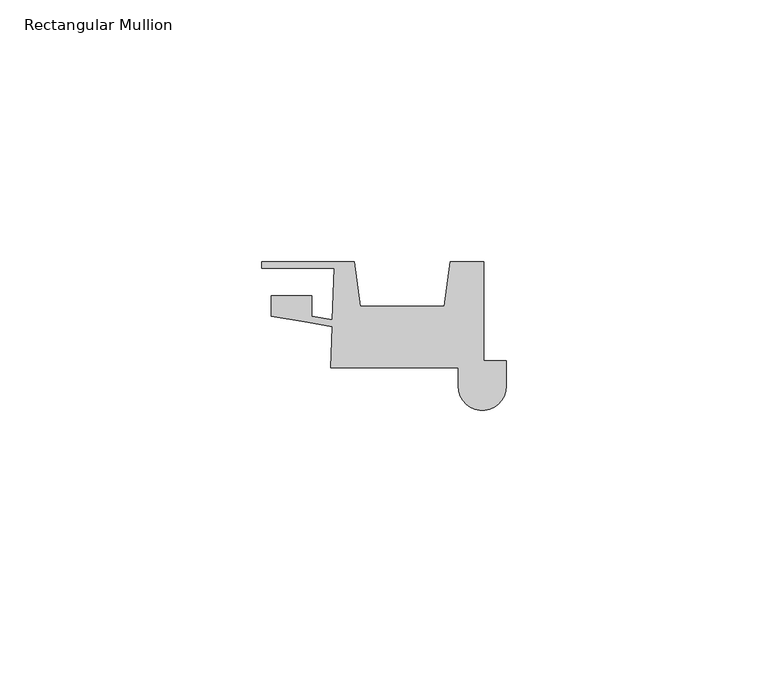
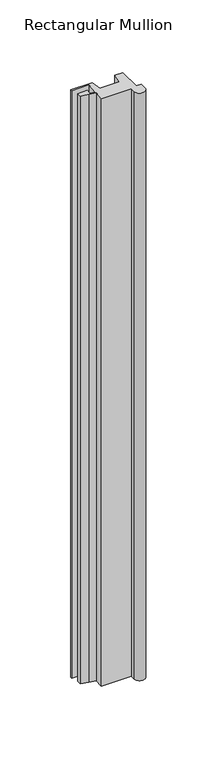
"""IFC4 building model written with IfcOpenShell, lengths in millimetres: member geometry, Rectangular Mullion : QuickPanel-Reveal_Multi-Angle-Outside-Corner-Trim-Right."""

import ifcopenshell
import ifcopenshell.guid

model = None  # the IFC model being written
_history = None  # IfcOwnerHistory: only IFC2X3 demands one
_inside = {}  # id of a spatial element -> (the spatial element, [elements in it])
_under = {}  # id of a project, library or spatial element -> (it, [spatial elements below it])
_declared = {}  # id of a project -> (the project, [libraries it declares])
_typed = {}  # id of a type object -> (the type object, [elements of that type])
_made_of = {}  # id of a material, layer set ... -> (it, [elements and type objects made of it])


def new_model(schema):
    """Start an empty IFC model of exactly this schema.

    Asked for "IFC4X3", IfcOpenShell would pick the latest addendum, in which some entities
    have other attributes; the version numbers below select the first issue.
    IFC2X3 requires an IfcOwnerHistory on every rooted entity: one is made here for all.
    """
    global model, _history
    if schema == "IFC4X3":
        model = ifcopenshell.file(schema_version=(4, 3, 0, 0))
    else:
        model = ifcopenshell.file(schema=schema)
    _inside.clear()
    _under.clear()
    _declared.clear()
    _typed.clear()
    _made_of.clear()
    _history = None
    if model.schema == "IFC2X3":
        org = make("IfcOrganization", Name="unknown")
        user = make(
            "IfcPersonAndOrganization",
            ThePerson=make("IfcPerson", FamilyName="unknown"),
            TheOrganization=org,
        )
        app = make(
            "IfcApplication",
            ApplicationDeveloper=org,
            Version="unknown",
            ApplicationFullName="unknown",
            ApplicationIdentifier="unknown",
        )
        _history = make(
            "IfcOwnerHistory",
            OwningUser=user,
            OwningApplication=app,
            ChangeAction="ADDED",
            CreationDate=0,
        )
    return model


def make(cls, **values):
    """One entity of the class cls with the attributes given. An attribute that is None is left unset."""
    return model.create_entity(
        cls, **{name: value for name, value in values.items() if value is not None}
    )


def rooted(cls, **values):
    """An entity with a GlobalId (a new one), such as an element, a storey or a relation."""
    return make(cls, GlobalId=ifcopenshell.guid.new(), OwnerHistory=_history, **values)


def si_unit(unit_type, name, prefix=None):
    """IfcSIUnit, for example si_unit("LENGTHUNIT", "METRE", prefix="MILLI")."""
    return make("IfcSIUnit", UnitType=unit_type, Prefix=prefix, Name=name)


def assignment(units):
    """IfcUnitAssignment: the units of a project."""
    return None if units is None else make("IfcUnitAssignment", Units=units)


def point(xyz):
    """IfcCartesianPoint."""
    return None if xyz is None else make("IfcCartesianPoint", Coordinates=xyz)


def direction(xyz):
    """IfcDirection."""
    return None if xyz is None else make("IfcDirection", DirectionRatios=xyz)


def frame(location, z_axis=None, x_axis=None):
    """IfcAxis2Placement3D, a coordinate frame: its origin and axes. An axis left out is left unset."""
    return make(
        "IfcAxis2Placement3D",
        Location=point(location),
        Axis=direction(z_axis),
        RefDirection=direction(x_axis),
    )


def frame_2d(location, x_axis=None):
    """IfcAxis2Placement2D, a coordinate frame in the plane: its origin and x axis."""
    return make(
        "IfcAxis2Placement2D", Location=point(location), RefDirection=direction(x_axis)
    )


def origin():
    """The frame at (0, 0, 0) with its axes left unset."""
    return frame((0.0, 0.0, 0.0))


def place(relative_to, where):
    """IfcLocalPlacement: puts the frame where relative to a parent placement (None: the world)."""
    return make(
        "IfcLocalPlacement", PlacementRelTo=relative_to, RelativePlacement=where
    )


def context(
    kind, dimensions, precision=None, world=None, true_north=None, identifier=None
):
    """IfcGeometricRepresentationContext, for example the 3D "Model" context."""
    return make(
        "IfcGeometricRepresentationContext",
        ContextIdentifier=identifier,
        ContextType=kind,
        CoordinateSpaceDimension=dimensions,
        Precision=precision,
        WorldCoordinateSystem=world,
        TrueNorth=true_north,
    )


def project(units=None, contexts=None):
    """IfcProject with its units and contexts."""
    return rooted(
        "IfcProject",
        Name="project",
        RepresentationContexts=contexts,
        UnitsInContext=assignment(units),
    )


def spatial(cls, under=None, at=None, **own):
    """A site, building, storey or space (cls), placed at a placement, below another one or the project."""
    s = rooted(cls, ObjectPlacement=at, **own)
    if under is not None:
        _under.setdefault(under.id(), (under, []))[1].append(s)
    return s


def polyline(points):
    """IfcPolyline through the points."""
    return make("IfcPolyline", Points=[point(p) for p in points])


def circle_curve(where, radius):
    """IfcCircle in the frame where."""
    return make("IfcCircle", Position=where, Radius=radius)


def trimmed(basis, trim1, trim2, sense, master):
    """IfcTrimmedCurve: the piece of a basis curve between two trims."""
    return make(
        "IfcTrimmedCurve",
        BasisCurve=basis,
        Trim1=trim1,
        Trim2=trim2,
        SenseAgreement=sense,
        MasterRepresentation=master,
    )


def segment(curve, same_sense, transition):
    """IfcCompositeCurveSegment."""
    return make(
        "IfcCompositeCurveSegment",
        Transition=transition,
        SameSense=same_sense,
        ParentCurve=curve,
    )


def composite_curve(segments, self_intersect=None):
    """IfcCompositeCurve: segments joined end to end."""
    return make("IfcCompositeCurve", Segments=segments, SelfIntersect=self_intersect)


def outline(outer, holes=None, kind="AREA"):
    """IfcArbitraryClosedProfileDef: a profile drawn as a closed curve; with holes, ...WithVoids."""
    if holes is None:
        return make("IfcArbitraryClosedProfileDef", ProfileType=kind, OuterCurve=outer)
    return make(
        "IfcArbitraryProfileDefWithVoids",
        ProfileType=kind,
        OuterCurve=outer,
        InnerCurves=holes,
    )


def extrude(swept, where, along, depth):
    """IfcExtrudedAreaSolid: the profile swept, set in the frame where, extruded along a direction by depth."""
    return make(
        "IfcExtrudedAreaSolid",
        SweptArea=swept,
        Position=where,
        ExtrudedDirection=direction(along),
        Depth=depth,
    )


def shape(context_of_items, identifier, shape_type, items):
    """IfcShapeRepresentation: the items that make up one representation, for example the "Body"."""
    return make(
        "IfcShapeRepresentation",
        ContextOfItems=context_of_items,
        RepresentationIdentifier=identifier,
        RepresentationType=shape_type,
        Items=items,
    )


def source(mapping_origin, context_of_items, identifier, shape_type, items):
    """IfcRepresentationMap: a shape defined once, which mapped items show again and again."""
    return make(
        "IfcRepresentationMap",
        MappingOrigin=mapping_origin,
        MappedRepresentation=shape(context_of_items, identifier, shape_type, items),
    )


def transform(
    local_origin,
    x_axis=None,
    y_axis=None,
    z_axis=None,
    scale=None,
    scale2=None,
    scale3=None,
    uniform=True,
):
    """IfcCartesianTransformationOperator3D, or its non-uniform kind. x_axis, y_axis, z_axis: its Axis1, 2, 3."""
    if uniform:
        return make(
            "IfcCartesianTransformationOperator3D",
            Axis1=direction(x_axis),
            Axis2=direction(y_axis),
            LocalOrigin=point(local_origin),
            Scale=scale,
            Axis3=direction(z_axis),
        )
    return make(
        "IfcCartesianTransformationOperator3DnonUniform",
        Axis1=direction(x_axis),
        Axis2=direction(y_axis),
        LocalOrigin=point(local_origin),
        Scale=scale,
        Axis3=direction(z_axis),
        Scale2=scale2,
        Scale3=scale3,
    )


def mapped(mapping_source, mapping_target):
    """IfcMappedItem: shows the shape of a source again, moved by a transform."""
    return make(
        "IfcMappedItem", MappingSource=mapping_source, MappingTarget=mapping_target
    )


def made_of(thing, what):
    """Note that an element or type object is made of a material, layer set ...; save() writes the relation."""
    if what is not None:
        _made_of.setdefault(what.id(), (what, []))[1].append(thing)
    return thing


def element(
    cls,
    number,
    at=None,
    inside=None,
    cuts=None,
    type_object=None,
    material=None,
    context=None,
    identifier="Body",
    shape_type=None,
    held_by="IfcProductDefinitionShape",
    body=None,
    shapes=None,
    **own,
):
    """One element of the class cls, such as IfcWall. Its Tag is "e" and its number.

    at: its placement. inside: the storey or other place that contains it. cuts: it is an
    opening in that element (IfcRelVoidsElement). A single representation is given by context,
    identifier, shape_type and body (its items); several are given by shapes. held_by: the class
    of the entity that holds the representations. save() writes the other relations.
    """
    e = rooted(cls, Tag="e%d" % number, ObjectPlacement=at, **own)
    if body is not None:
        shapes = [shape(context, identifier, shape_type, body)]
    if shapes is not None:
        e.Representation = make(held_by, Representations=shapes)
    if inside is not None:
        _inside.setdefault(inside.id(), (inside, []))[1].append(e)
    if cuts is not None:
        rooted(
            "IfcRelVoidsElement", RelatingBuildingElement=cuts, RelatedOpeningElement=e
        )
    if type_object is not None:
        _typed.setdefault(type_object.id(), (type_object, []))[1].append(e)
    return made_of(e, material)


def aggregate(whole, parts):
    """IfcRelAggregates: a whole, such as a stair, and the parts it consists of."""
    return rooted("IfcRelAggregates", RelatingObject=whole, RelatedObjects=parts)


def save(model, path):
    """Write the relations noted so far, then the file.

    IfcRelAggregates (storeys below a building ...), IfcRelContainedInSpatialStructure (elements
    in a storey), IfcRelDefinesByType, IfcRelAssociatesMaterial and IfcRelDeclares: one each for
    every whole, place, type object, material and project.
    """
    for whole, parts in _under.values():
        aggregate(whole, parts)
    for where, things in _inside.values():
        rooted(
            "IfcRelContainedInSpatialStructure",
            RelatedElements=things,
            RelatingStructure=where,
        )
    for kind, things in _typed.values():
        rooted("IfcRelDefinesByType", RelatedObjects=things, RelatingType=kind)
    for what, things in _made_of.values():
        rooted("IfcRelAssociatesMaterial", RelatedObjects=things, RelatingMaterial=what)
    for by, libraries in _declared.values():
        rooted("IfcRelDeclares", RelatingContext=by, RelatedDefinitions=libraries)
    model.write(path)


def rectangular_mullion_e98db40d(model_context):
    return source(origin(), model_context, "Body", "SweptSolid", [
        extrude(outline(composite_curve([segment(polyline([(-33.5174141, -8.095605), (-33.2416678, -0.1992641), (-38.4919487, 0.7008023), (-44.9272813, 1.8040245), (-44.9272813, 5.6493034), (-37.1825082, 5.6493034), (-37.1825082, 1.7648465), (-33.1969393, 1.0815922), (-32.8530122, 10.9303752), (-46.7093657, 10.9303752), (-46.7093657, 12.1803727), (-29.060393, 12.1803727), (-27.8716753, 3.7222065), (-11.8585488, 3.7222065), (-10.6698311, 12.1803727), (-4.2600515, 12.1803727), (-4.2600515, -6.6995181), (0.0, -6.6995181), (0.0, -11.6334034)]), True, "CONTINUOUS"), segment(trimmed(circle_curve(frame_2d((-4.572, -11.6334034)), 4.572), [point((0.0, -11.6334034))], [point((-9.144, -11.6334034))], False, "CARTESIAN"), True, "CONTINUOUS"), segment(polyline([(-9.144, -11.6334034), (-9.144, -8.095605), (-33.5174141, -8.095605)]), True, "CONTINUOUS")], self_intersect=False)), frame((0.0, 0.0, -506.7037574), z_axis=(0.0, 0.0, 1.0), x_axis=(1.0, 0.0, 0.0)), (0.0, 0.0, 1.0), 506.7037574),
    ])


if __name__ == "__main__":
    model = new_model("IFC4")
    model_context = context("Model", 3, world=origin())
    ifc_project = project(units=[si_unit("LENGTHUNIT", "METRE", prefix="MILLI")], contexts=[model_context])
    site = spatial("IfcSite", under=ifc_project)
    building = spatial("IfcBuilding", under=site)
    placement = place(None, origin())
    rectangular_mullion_shape = rectangular_mullion_e98db40d(model_context)
    element("IfcMember", 1, ObjectType="Rectangular Mullion : QuickPanel-Reveal_Multi-Angle-Outside-Corner-Trim-Right", at=placement, inside=building, context=model_context, shape_type="MappedRepresentation", body=[
        mapped(rectangular_mullion_shape, transform((0.0, 0.0, 0.0), x_axis=(1.0, 0.0, 0.0), y_axis=(0.0, 1.0, 0.0), z_axis=(0.0, 0.0, 1.0))),
    ])
    save(model, "model.ifc")
